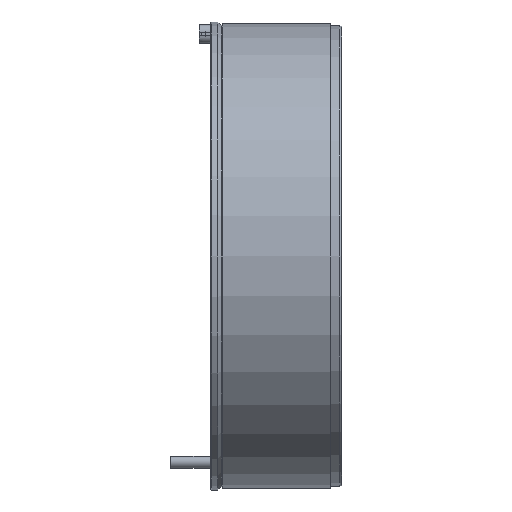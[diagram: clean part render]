
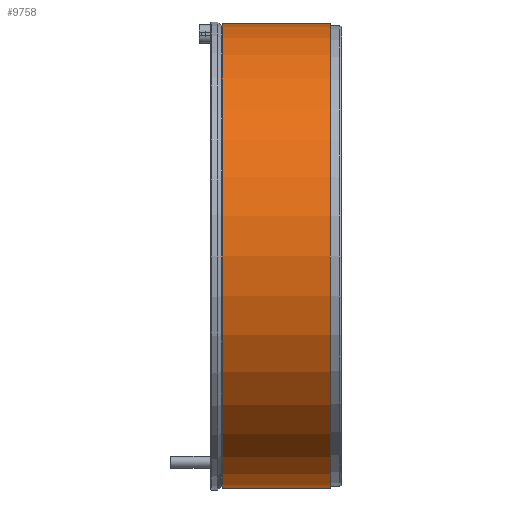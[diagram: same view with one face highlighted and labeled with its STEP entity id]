
A CAD part, left-side view. The second image highlights one B-rep face of the part: STEP entity #9758.
In plain terms, the highlighted cylindrical face has radius 284 mm (diameter 568 mm), a partial arc.
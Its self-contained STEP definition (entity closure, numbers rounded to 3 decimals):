
#421 = DIRECTION ( 'NONE',  ( 0., 0., -1. ) ) ;
#448 = CIRCLE ( 'NONE', #11802, 284. ) ;
#900 = FACE_OUTER_BOUND ( 'NONE', #3421, .T. ) ;
#1542 = VERTEX_POINT ( 'NONE', #2132 ) ;
#1552 = CARTESIAN_POINT ( 'NONE',  ( 0., 13.5, 0. ) ) ;
#1829 = ORIENTED_EDGE ( 'NONE', *, *, #3905, .T. ) ;
#2085 = CYLINDRICAL_SURFACE ( 'NONE', #11170, 284. ) ;
#2132 = CARTESIAN_POINT ( 'NONE',  ( 0., 146., -284. ) ) ;
#2573 = VERTEX_POINT ( 'NONE', #12424 ) ;
#2618 = EDGE_CURVE ( 'NONE', #11600, #2573, #448, .T. ) ;
#2730 = DIRECTION ( 'NONE',  ( 0., -1., 0. ) ) ;
#3421 = EDGE_LOOP ( 'NONE', ( #8524, #1829, #5620, #13793 ) ) ;
#3637 = DIRECTION ( 'NONE',  ( 0., -1., 0. ) ) ;
#3717 = CARTESIAN_POINT ( 'NONE',  ( 0., 0., 0. ) ) ;
#3905 = EDGE_CURVE ( 'NONE', #8143, #1542, #13000, .T. ) ;
#4209 = CARTESIAN_POINT ( 'NONE',  ( 0., 13.5, 284. ) ) ;
#5620 = ORIENTED_EDGE ( 'NONE', *, *, #7109, .T. ) ;
#7109 = EDGE_CURVE ( 'NONE', #1542, #2573, #10857, .T. ) ;
#7173 = DIRECTION ( 'NONE',  ( 0., -1., 0. ) ) ;
#7277 = CARTESIAN_POINT ( 'NONE',  ( 0., 146., 0. ) ) ;
#8143 = VERTEX_POINT ( 'NONE', #11435 ) ;
#8277 = VECTOR ( 'NONE', #13500, 1000. ) ;
#8524 = ORIENTED_EDGE ( 'NONE', *, *, #11078, .F. ) ;
#9186 = CARTESIAN_POINT ( 'NONE',  ( 0., 0., -284. ) ) ;
#9758 = ADVANCED_FACE ( 'NONE', ( #900 ), #2085, .T. ) ;
#10402 = LINE ( 'NONE', #13637, #13638 ) ;
#10488 = DIRECTION ( 'NONE',  ( 0., 0., -1. ) ) ;
#10857 = LINE ( 'NONE', #9186, #8277 ) ;
#11078 = EDGE_CURVE ( 'NONE', #8143, #11600, #10402, .T. ) ;
#11170 = AXIS2_PLACEMENT_3D ( 'NONE', #3717, #3637, #11349 ) ;
#11349 = DIRECTION ( 'NONE',  ( 0., 0., -1. ) ) ;
#11435 = CARTESIAN_POINT ( 'NONE',  ( 0., 146., 284. ) ) ;
#11600 = VERTEX_POINT ( 'NONE', #4209 ) ;
#11631 = AXIS2_PLACEMENT_3D ( 'NONE', #7277, #7173, #10488 ) ;
#11802 = AXIS2_PLACEMENT_3D ( 'NONE', #1552, #2730, #421 ) ;
#12424 = CARTESIAN_POINT ( 'NONE',  ( 0., 13.5, -284. ) ) ;
#12566 = DIRECTION ( 'NONE',  ( 0., -1., 0. ) ) ;
#13000 = CIRCLE ( 'NONE', #11631, 284. ) ;
#13500 = DIRECTION ( 'NONE',  ( 0., -1., 0. ) ) ;
#13637 = CARTESIAN_POINT ( 'NONE',  ( 0., 0., 284. ) ) ;
#13638 = VECTOR ( 'NONE', #12566, 1000. ) ;
#13793 = ORIENTED_EDGE ( 'NONE', *, *, #2618, .F. ) ;
